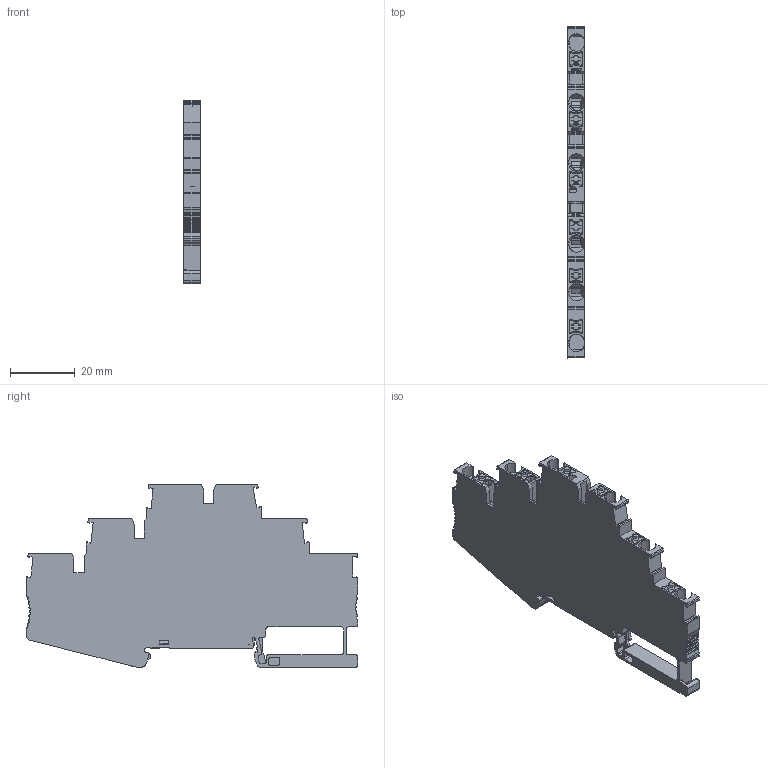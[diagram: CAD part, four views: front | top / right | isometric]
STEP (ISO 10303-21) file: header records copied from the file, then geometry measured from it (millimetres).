
FILE_DESCRIPTION((''),'2;1');
FILE_NAME('ADMI52F4AE488O77_9','2024-03-29T15:27:01',('Administrator'),(''),'CREO PARAMETRIC BY PTC INC, 2018050','CREO PARAMETRIC BY PTC INC, 2018050','');
FILE_SCHEMA(('CONFIG_CONTROL_DESIGN'));
Products named in the file (1): ADMI52F4AE488O77_9
Bounding box: 5.2 x 102.2 x 56.45 mm (x, y, z)
Volume: 18496.2 mm3; surface area: 14179.6 mm2
Topology: 1 solids, 6 shells, 1503 faces, 4343 edges, 2832 vertices
Faces by surface type: plane 876, cylinder 515, bspline 40, torus 36, cone 36
Entity records: 52858 total; most frequent: CARTESIAN_POINT 13408, ORIENTED_EDGE 8662, DIRECTION 7731, EDGE_CURVE 4331, VECTOR 3011, LINE 3011, VERTEX_POINT 2832, AXIS2_PLACEMENT_3D 2360
